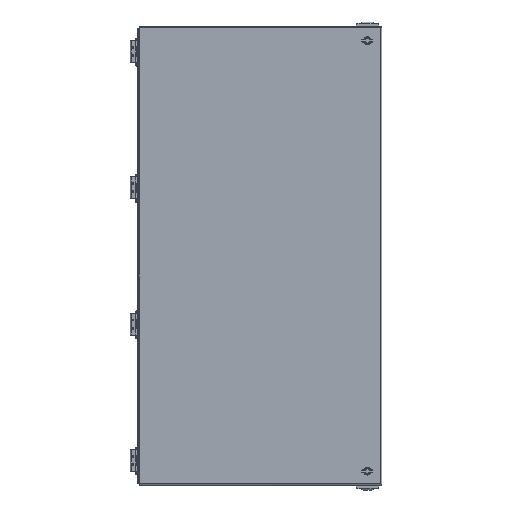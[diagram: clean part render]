
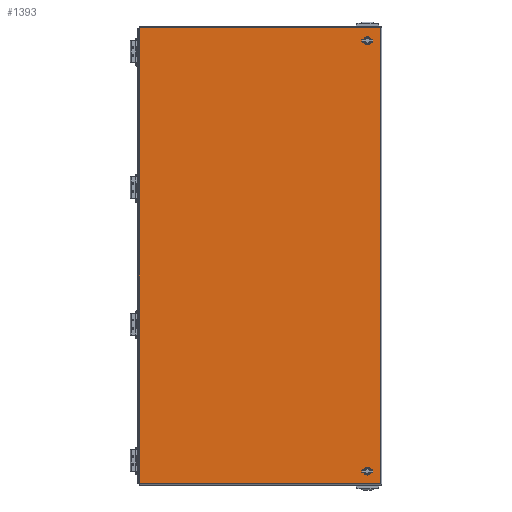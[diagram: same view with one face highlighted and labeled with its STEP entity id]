
A CAD part, top view. The second image highlights one B-rep face of the part: STEP entity #1393.
In plain terms, the highlighted planar face has unit normal (0, 0, 1).
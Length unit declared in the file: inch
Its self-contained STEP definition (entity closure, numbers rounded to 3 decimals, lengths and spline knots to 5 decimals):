
#2=DIRECTION('',(0.,-1.,0.));
#3=VECTOR('',#2,0.094);
#4=CARTESIAN_POINT('',(-17.3125,-32.72933,0.828));
#5=LINE('',#4,#3);
#6=DIRECTION('',(1.,0.,0.));
#7=VECTOR('',#6,0.092);
#8=CARTESIAN_POINT('',(-17.4045,-32.72933,0.828));
#9=LINE('',#8,#7);
#10=DIRECTION('',(-1.,0.,0.));
#11=VECTOR('',#10,0.092);
#12=CARTESIAN_POINT('',(-17.3125,32.72933,0.828));
#13=LINE('',#12,#11);
#14=DIRECTION('',(0.,-1.,0.));
#15=VECTOR('',#14,0.094);
#16=CARTESIAN_POINT('',(-17.3125,32.82333,0.828));
#17=LINE('',#16,#15);
#18=DIRECTION('',(1.,0.,0.));
#19=VECTOR('',#18,0.39715);
#20=CARTESIAN_POINT('',(15.27392,31.37533,0.828));
#21=LINE('',#20,#19);
#22=CARTESIAN_POINT('',(15.4725,30.97933,0.828));
#23=DIRECTION('',(0.,0.,1.));
#24=DIRECTION('',(-0.448,0.894,0.));
#25=AXIS2_PLACEMENT_3D('',#22,#23,#24);
#27=DIRECTION('',(0.,1.,0.));
#28=VECTOR('',#27,0.39715);
#29=CARTESIAN_POINT('',(15.0765,30.78075,0.828));
#30=LINE('',#29,#28);
#31=CARTESIAN_POINT('',(15.4725,30.97933,0.828));
#32=DIRECTION('',(0.,0.,1.));
#33=DIRECTION('',(-0.894,-0.448,0.));
#34=AXIS2_PLACEMENT_3D('',#31,#32,#33);
#36=DIRECTION('',(-1.,0.,0.));
#37=VECTOR('',#36,0.39715);
#38=CARTESIAN_POINT('',(15.67108,30.58333,0.828));
#39=LINE('',#38,#37);
#40=CARTESIAN_POINT('',(15.4725,30.97933,0.828));
#41=DIRECTION('',(0.,0.,1.));
#42=DIRECTION('',(0.448,-0.894,0.));
#43=AXIS2_PLACEMENT_3D('',#40,#41,#42);
#45=DIRECTION('',(0.,-1.,0.));
#46=VECTOR('',#45,0.39715);
#47=CARTESIAN_POINT('',(15.8685,31.17791,0.828));
#48=LINE('',#47,#46);
#49=CARTESIAN_POINT('',(15.4725,30.97933,0.828));
#50=DIRECTION('',(0.,0.,1.));
#51=DIRECTION('',(0.894,0.448,0.));
#52=AXIS2_PLACEMENT_3D('',#49,#50,#51);
#54=CARTESIAN_POINT('',(15.4725,-30.97933,0.828));
#55=DIRECTION('',(0.,0.,1.));
#56=DIRECTION('',(-0.894,-0.448,0.));
#57=AXIS2_PLACEMENT_3D('',#54,#55,#56);
#59=DIRECTION('',(-1.,0.,0.));
#60=VECTOR('',#59,0.39715);
#61=CARTESIAN_POINT('',(15.67108,-31.37533,0.828));
#62=LINE('',#61,#60);
#63=CARTESIAN_POINT('',(15.4725,-30.97933,0.828));
#64=DIRECTION('',(0.,0.,1.));
#65=DIRECTION('',(0.448,-0.894,0.));
#66=AXIS2_PLACEMENT_3D('',#63,#64,#65);
#68=DIRECTION('',(0.,-1.,0.));
#69=VECTOR('',#68,0.39715);
#70=CARTESIAN_POINT('',(15.8685,-30.78075,0.828));
#71=LINE('',#70,#69);
#72=CARTESIAN_POINT('',(15.4725,-30.97933,0.828));
#73=DIRECTION('',(0.,0.,1.));
#74=DIRECTION('',(0.894,0.448,0.));
#75=AXIS2_PLACEMENT_3D('',#72,#73,#74);
#77=DIRECTION('',(1.,0.,0.));
#78=VECTOR('',#77,0.39715);
#79=CARTESIAN_POINT('',(15.27392,-30.58333,0.828));
#80=LINE('',#79,#78);
#81=CARTESIAN_POINT('',(15.4725,-30.97933,0.828));
#82=DIRECTION('',(0.,0.,1.));
#83=DIRECTION('',(-0.448,0.894,0.));
#84=AXIS2_PLACEMENT_3D('',#81,#82,#83);
#86=DIRECTION('',(0.,1.,0.));
#87=VECTOR('',#86,0.39715);
#88=CARTESIAN_POINT('',(15.0765,-31.17791,0.828));
#89=LINE('',#88,#87);
#90=DIRECTION('',(1.,0.,0.));
#91=VECTOR('',#90,34.719);
#92=CARTESIAN_POINT('',(-17.3125,-32.82333,0.828));
#93=LINE('',#92,#91);
#134=DIRECTION('',(0.,1.,0.));
#135=VECTOR('',#134,65.64666);
#136=CARTESIAN_POINT('',(17.4065,-32.82333,0.828));
#137=LINE('',#136,#135);
#169=DIRECTION('',(-1.,0.,0.));
#170=VECTOR('',#169,34.719);
#171=CARTESIAN_POINT('',(17.4065,32.82333,0.828));
#172=LINE('',#171,#170);
#593=DIRECTION('',(0.,-1.,0.));
#594=VECTOR('',#593,65.45866);
#595=CARTESIAN_POINT('',(-17.4045,32.72933,0.828));
#596=LINE('',#595,#594);
#1046=CARTESIAN_POINT('',(-17.3125,32.82333,0.828));
#1048=VERTEX_POINT('',#1046);
#1050=CARTESIAN_POINT('',(-17.3125,-32.82333,0.828));
#1052=VERTEX_POINT('',#1050);
#1054=CARTESIAN_POINT('',(17.4065,-32.82333,0.828));
#1055=CARTESIAN_POINT('',(17.4065,32.82333,0.828));
#1056=VERTEX_POINT('',#1054);
#1057=VERTEX_POINT('',#1055);
#1079=CARTESIAN_POINT('',(-17.3125,32.72933,0.828));
#1081=VERTEX_POINT('',#1079);
#1083=CARTESIAN_POINT('',(-17.3125,-32.72933,0.828));
#1085=VERTEX_POINT('',#1083);
#1098=CARTESIAN_POINT('',(-17.4045,-32.72933,0.828));
#1099=VERTEX_POINT('',#1098);
#1100=CARTESIAN_POINT('',(-17.4045,32.72933,0.828));
#1101=VERTEX_POINT('',#1100);
#1238=CARTESIAN_POINT('',(15.27392,31.37533,0.828));
#1239=CARTESIAN_POINT('',(15.67108,31.37533,0.828));
#1240=VERTEX_POINT('',#1238);
#1241=VERTEX_POINT('',#1239);
#1242=CARTESIAN_POINT('',(15.8685,31.17791,0.828));
#1243=VERTEX_POINT('',#1242);
#1244=CARTESIAN_POINT('',(15.8685,30.78075,0.828));
#1245=VERTEX_POINT('',#1244);
#1246=CARTESIAN_POINT('',(15.67108,30.58333,0.828));
#1247=VERTEX_POINT('',#1246);
#1248=CARTESIAN_POINT('',(15.27392,30.58333,0.828));
#1249=VERTEX_POINT('',#1248);
#1250=CARTESIAN_POINT('',(15.0765,30.78075,0.828));
#1251=VERTEX_POINT('',#1250);
#1252=CARTESIAN_POINT('',(15.0765,31.17791,0.828));
#1253=VERTEX_POINT('',#1252);
#1254=CARTESIAN_POINT('',(15.0765,-31.17791,0.828));
#1255=CARTESIAN_POINT('',(15.27392,-31.37533,0.828));
#1256=VERTEX_POINT('',#1254);
#1257=VERTEX_POINT('',#1255);
#1258=CARTESIAN_POINT('',(15.0765,-30.78075,0.828));
#1259=VERTEX_POINT('',#1258);
#1260=CARTESIAN_POINT('',(15.27392,-30.58333,0.828));
#1261=VERTEX_POINT('',#1260);
#1262=CARTESIAN_POINT('',(15.67108,-30.58333,0.828));
#1263=VERTEX_POINT('',#1262);
#1264=CARTESIAN_POINT('',(15.8685,-30.78075,0.828));
#1265=VERTEX_POINT('',#1264);
#1266=CARTESIAN_POINT('',(15.8685,-31.17791,0.828));
#1267=VERTEX_POINT('',#1266);
#1268=CARTESIAN_POINT('',(15.67108,-31.37533,0.828));
#1269=VERTEX_POINT('',#1268);
#1334=CARTESIAN_POINT('',(0.,0.,0.828));
#1335=DIRECTION('',(0.,0.,1.));
#1336=DIRECTION('',(1.,0.,0.));
#1337=AXIS2_PLACEMENT_3D('',#1334,#1335,#1336);
#1338=PLANE('',#1337);
#1340=ORIENTED_EDGE('',*,*,#1339,.F.);
#1342=ORIENTED_EDGE('',*,*,#1341,.F.);
#1344=ORIENTED_EDGE('',*,*,#1343,.F.);
#1346=ORIENTED_EDGE('',*,*,#1345,.F.);
#1348=ORIENTED_EDGE('',*,*,#1347,.F.);
#1350=ORIENTED_EDGE('',*,*,#1349,.F.);
#1352=ORIENTED_EDGE('',*,*,#1351,.F.);
#1354=ORIENTED_EDGE('',*,*,#1353,.F.);
#1355=EDGE_LOOP('',(#1340,#1342,#1344,#1346,#1348,#1350,#1352,#1354));
#1356=FACE_OUTER_BOUND('',#1355,.F.);
#1358=ORIENTED_EDGE('',*,*,#1357,.F.);
#1360=ORIENTED_EDGE('',*,*,#1359,.T.);
#1362=ORIENTED_EDGE('',*,*,#1361,.F.);
#1364=ORIENTED_EDGE('',*,*,#1363,.T.);
#1366=ORIENTED_EDGE('',*,*,#1365,.F.);
#1368=ORIENTED_EDGE('',*,*,#1367,.T.);
#1370=ORIENTED_EDGE('',*,*,#1369,.F.);
#1372=ORIENTED_EDGE('',*,*,#1371,.T.);
#1373=EDGE_LOOP('',(#1358,#1360,#1362,#1364,#1366,#1368,#1370,#1372));
#1374=FACE_BOUND('',#1373,.F.);
#1376=ORIENTED_EDGE('',*,*,#1375,.T.);
#1378=ORIENTED_EDGE('',*,*,#1377,.F.);
#1380=ORIENTED_EDGE('',*,*,#1379,.T.);
#1382=ORIENTED_EDGE('',*,*,#1381,.F.);
#1384=ORIENTED_EDGE('',*,*,#1383,.T.);
#1386=ORIENTED_EDGE('',*,*,#1385,.F.);
#1388=ORIENTED_EDGE('',*,*,#1387,.T.);
#1390=ORIENTED_EDGE('',*,*,#1389,.F.);
#1391=EDGE_LOOP('',(#1376,#1378,#1380,#1382,#1384,#1386,#1388,#1390));
#1392=FACE_BOUND('',#1391,.F.);
#1393=ADVANCED_FACE('',(#1356,#1374,#1392),#1338,.T.);
#26=CIRCLE('',#25,0.443);
#35=CIRCLE('',#34,0.443);
#44=CIRCLE('',#43,0.443);
#53=CIRCLE('',#52,0.443);
#58=CIRCLE('',#57,0.443);
#67=CIRCLE('',#66,0.443);
#76=CIRCLE('',#75,0.443);
#85=CIRCLE('',#84,0.443);
#1339=EDGE_CURVE('',#1052,#1056,#93,.T.);
#1341=EDGE_CURVE('',#1085,#1052,#5,.T.);
#1343=EDGE_CURVE('',#1099,#1085,#9,.T.);
#1345=EDGE_CURVE('',#1101,#1099,#596,.T.);
#1347=EDGE_CURVE('',#1081,#1101,#13,.T.);
#1349=EDGE_CURVE('',#1048,#1081,#17,.T.);
#1351=EDGE_CURVE('',#1057,#1048,#172,.T.);
#1353=EDGE_CURVE('',#1056,#1057,#137,.T.);
#1357=EDGE_CURVE('',#1240,#1241,#21,.T.);
#1359=EDGE_CURVE('',#1240,#1253,#26,.T.);
#1361=EDGE_CURVE('',#1251,#1253,#30,.T.);
#1363=EDGE_CURVE('',#1251,#1249,#35,.T.);
#1365=EDGE_CURVE('',#1247,#1249,#39,.T.);
#1367=EDGE_CURVE('',#1247,#1245,#44,.T.);
#1369=EDGE_CURVE('',#1243,#1245,#48,.T.);
#1371=EDGE_CURVE('',#1243,#1241,#53,.T.);
#1375=EDGE_CURVE('',#1256,#1257,#58,.T.);
#1377=EDGE_CURVE('',#1269,#1257,#62,.T.);
#1379=EDGE_CURVE('',#1269,#1267,#67,.T.);
#1381=EDGE_CURVE('',#1265,#1267,#71,.T.);
#1383=EDGE_CURVE('',#1265,#1263,#76,.T.);
#1385=EDGE_CURVE('',#1261,#1263,#80,.T.);
#1387=EDGE_CURVE('',#1261,#1259,#85,.T.);
#1389=EDGE_CURVE('',#1256,#1259,#89,.T.);
